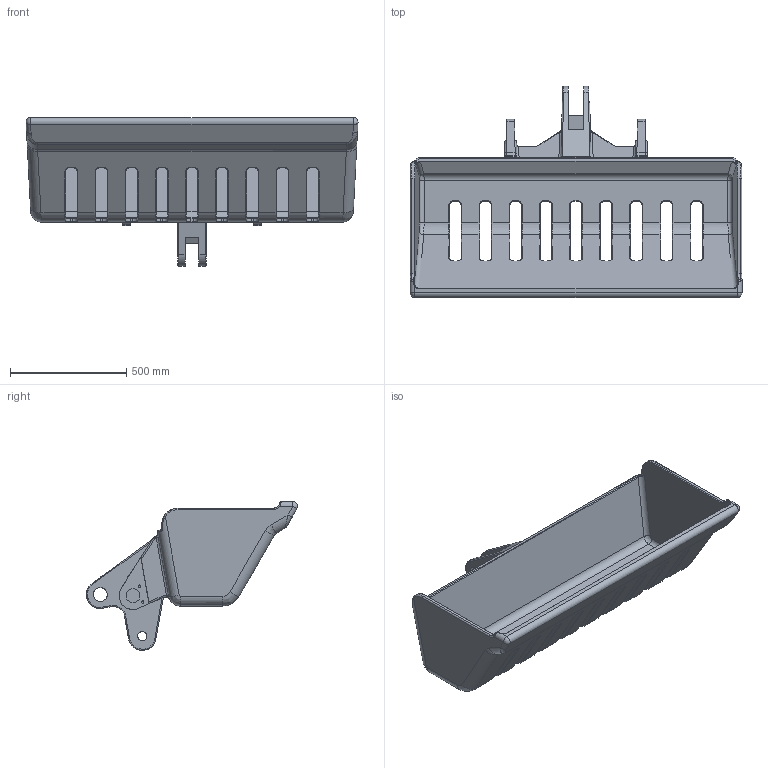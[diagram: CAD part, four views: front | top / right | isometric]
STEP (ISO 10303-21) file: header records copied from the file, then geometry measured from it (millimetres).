
FILE_DESCRIPTION(('CATIA V5 STEP Exchange','CAx-IF Rec.Pracs.--- Model Styling and Organization---1.4--- 2014-01-23','CAx-IF Rec.Pracs.---3D Tessellated Data Validation Properties---0.5---2014-09-14'),'2;1');
FILE_NAME('C:\Users\h-jaefarii\Desktop\PTM grab2\CAD\3S-403145.stp','2024-11-19T08:01:17+00:00',('none'),('none'),'CATIA Version 5-6 Release 2019','3DEXPERIENCE Platform STEP AP242 v1','none');
FILE_SCHEMA(('AP242_MANAGED_MODEL_BASED_3D_ENGINEERING_MIM_LF {1 0 10303 442 1 1 4}'));
Length unit declared in the file: millimetre
Products named in the file (1): 3S-403144
Bounding box: 1430.73 x 910.22 x 641 mm (x, y, z)
Volume: 50068349 mm3; surface area: 4039596.9 mm2
Topology: 1 solids, 1 shells, 648 faces, 1615 edges, 928 vertices
Faces by surface type: cylinder 312, bspline 114, torus 108, plane 104, sphere 10
Entity records: 29204 total; most frequent: CARTESIAN_POINT 15582, ORIENTED_EDGE 3186, DIRECTION 2087, EDGE_CURVE 1593, AXIS2_PLACEMENT_3D 1027, VERTEX_POINT 928, EDGE_LOOP 675, ADVANCED_FACE 648
